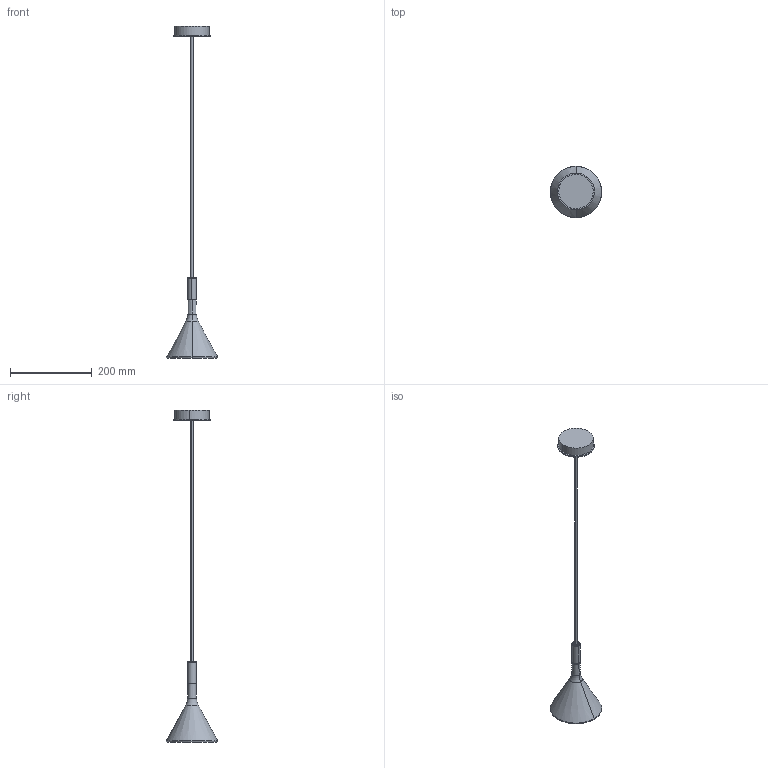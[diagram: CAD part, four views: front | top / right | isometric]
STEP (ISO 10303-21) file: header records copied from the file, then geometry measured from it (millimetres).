
FILE_DESCRIPTION (( 'STEP AP214' ), '1' );
FILE_NAME ('195_MINI_S_PL_3D.STEP', '2021-04-27T12:07:27', ( '' ), ( '' ), 'SwSTEP 2.0', 'SolidWorks 2021', '' );
FILE_SCHEMA (( 'AUTOMOTIVE_DESIGN' ));
Length unit declared in the file: millimetre
Products named in the file (1): 195_MINI_S_PL_3D
Bounding box: 125.78 x 125.78 x 811.3 mm (x, y, z)
Volume: 411845 mm3; surface area: 90567.1 mm2
Topology: 3 solids, 3 shells, 66 faces, 130 edges, 76 vertices
Faces by surface type: torus 20, cylinder 18, cone 16, plane 12
Entity records: 2500 total; most frequent: DIRECTION 360, CARTESIAN_POINT 273, ORIENTED_EDGE 260, AXIS2_PLACEMENT_3D 163, EDGE_CURVE 130, CIRCLE 96, VERTEX_POINT 76, EDGE_LOOP 76
